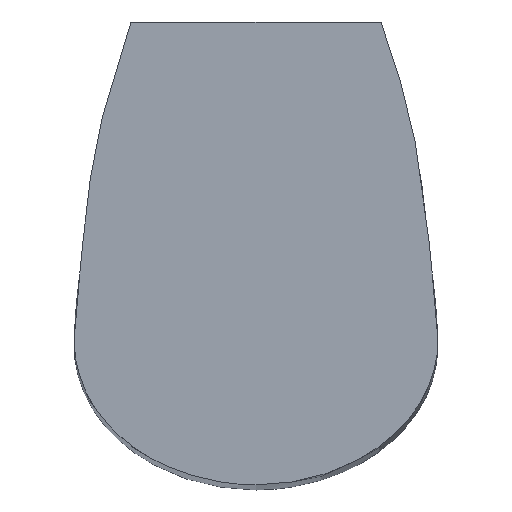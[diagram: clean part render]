
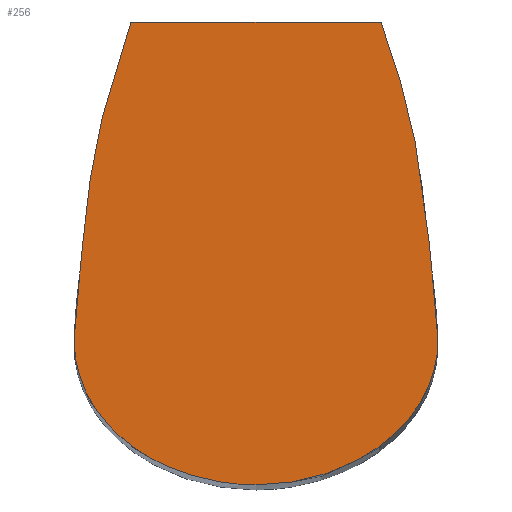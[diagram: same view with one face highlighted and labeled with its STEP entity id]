
A CAD part, top view. The second image highlights one B-rep face of the part: STEP entity #256.
In plain terms, the highlighted planar face has unit normal (0, 0, 1).
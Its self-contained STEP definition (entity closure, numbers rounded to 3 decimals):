
#1=DIRECTION('',(1.,0.,0.));
#2=VECTOR('',#1,1.014);
#3=CARTESIAN_POINT('',(-0.507,-0.25,12.));
#4=LINE('',#3,#2);
#5=CARTESIAN_POINT('',(0.701,-1.134,12.));
#6=CARTESIAN_POINT('',(0.689,-0.984,12.));
#7=CARTESIAN_POINT('',(0.645,-0.683,12.));
#8=CARTESIAN_POINT('',(0.559,-0.392,12.));
#9=CARTESIAN_POINT('',(0.507,-0.25,12.));
#11=CARTESIAN_POINT('',(0.713,-1.259,12.));
#12=CARTESIAN_POINT('',(0.707,-1.216,12.));
#13=CARTESIAN_POINT('',(0.704,-1.175,12.));
#14=CARTESIAN_POINT('',(0.701,-1.134,12.));
#16=CARTESIAN_POINT('',(0.737,-1.533,12.));
#17=CARTESIAN_POINT('',(0.734,-1.442,12.));
#18=CARTESIAN_POINT('',(0.726,-1.35,12.));
#19=CARTESIAN_POINT('',(0.713,-1.259,12.));
#21=CARTESIAN_POINT('',(0.,-2.126,12.));
#22=CARTESIAN_POINT('',(0.045,-2.126,12.));
#23=CARTESIAN_POINT('',(0.134,-2.119,12.));
#24=CARTESIAN_POINT('',(0.308,-2.08,12.));
#25=CARTESIAN_POINT('',(0.51,-1.982,12.));
#26=CARTESIAN_POINT('',(0.694,-1.788,12.));
#27=CARTESIAN_POINT('',(0.739,-1.618,12.));
#28=CARTESIAN_POINT('',(0.737,-1.533,12.));
#30=CARTESIAN_POINT('',(-0.737,-1.533,12.));
#31=CARTESIAN_POINT('',(-0.739,-1.618,12.));
#32=CARTESIAN_POINT('',(-0.694,-1.788,12.));
#33=CARTESIAN_POINT('',(-0.51,-1.982,12.));
#34=CARTESIAN_POINT('',(-0.308,-2.08,12.));
#35=CARTESIAN_POINT('',(-0.134,-2.119,12.));
#36=CARTESIAN_POINT('',(-0.045,-2.126,12.));
#37=CARTESIAN_POINT('',(0.,-2.126,12.));
#39=CARTESIAN_POINT('',(-0.713,-1.259,12.));
#40=CARTESIAN_POINT('',(-0.726,-1.35,12.));
#41=CARTESIAN_POINT('',(-0.734,-1.442,12.));
#42=CARTESIAN_POINT('',(-0.737,-1.533,12.));
#44=CARTESIAN_POINT('',(-0.701,-1.134,12.));
#45=CARTESIAN_POINT('',(-0.704,-1.175,12.));
#46=CARTESIAN_POINT('',(-0.707,-1.216,12.));
#47=CARTESIAN_POINT('',(-0.713,-1.259,12.));
#49=CARTESIAN_POINT('',(-0.507,-0.25,12.));
#50=CARTESIAN_POINT('',(-0.559,-0.392,12.));
#51=CARTESIAN_POINT('',(-0.645,-0.683,12.));
#52=CARTESIAN_POINT('',(-0.689,-0.984,12.));
#53=CARTESIAN_POINT('',(-0.701,-1.134,12.));
#220=CARTESIAN_POINT('',(-0.507,-0.25,12.));
#221=CARTESIAN_POINT('',(0.507,-0.25,12.));
#222=VERTEX_POINT('',#220);
#223=VERTEX_POINT('',#221);
#224=VERTEX_POINT('',#53);
#225=VERTEX_POINT('',#47);
#226=VERTEX_POINT('',#42);
#227=VERTEX_POINT('',#37);
#228=VERTEX_POINT('',#28);
#229=VERTEX_POINT('',#19);
#230=VERTEX_POINT('',#14);
#231=CARTESIAN_POINT('',(-0.507,-0.25,12.));
#232=DIRECTION('',(0.,0.,-1.));
#233=DIRECTION('',(1.,0.,0.));
#234=AXIS2_PLACEMENT_3D('',#231,#232,#233);
#235=PLANE('',#234);
#237=ORIENTED_EDGE('',*,*,#236,.T.);
#239=ORIENTED_EDGE('',*,*,#238,.F.);
#241=ORIENTED_EDGE('',*,*,#240,.F.);
#243=ORIENTED_EDGE('',*,*,#242,.F.);
#245=ORIENTED_EDGE('',*,*,#244,.F.);
#247=ORIENTED_EDGE('',*,*,#246,.F.);
#249=ORIENTED_EDGE('',*,*,#248,.F.);
#251=ORIENTED_EDGE('',*,*,#250,.F.);
#253=ORIENTED_EDGE('',*,*,#252,.F.);
#254=EDGE_LOOP('',(#237,#239,#241,#243,#245,#247,#249,#251,#253));
#255=FACE_OUTER_BOUND('',#254,.F.);
#256=ADVANCED_FACE('',(#255),#235,.F.);
#10=B_SPLINE_CURVE_WITH_KNOTS('',3,(#5,#6,#7,#8,#9),.UNSPECIFIED.,.F.,.F.,(4,1,
4),(0.,0.5,1.),.UNSPECIFIED.);
#15=B_SPLINE_CURVE_WITH_KNOTS('',3,(#11,#12,#13,#14),.UNSPECIFIED.,.F.,.F.,(4,
4),(0.,1.),.UNSPECIFIED.);
#20=B_SPLINE_CURVE_WITH_KNOTS('',3,(#16,#17,#18,#19),.UNSPECIFIED.,.F.,.F.,(4,
4),(0.,1.),.UNSPECIFIED.);
#29=B_SPLINE_CURVE_WITH_KNOTS('',3,(#21,#22,#23,#24,#25,#26,#27,#28),
.UNSPECIFIED.,.F.,.F.,(4,1,1,1,1,4),(0.,0.125,0.25,0.5,0.75,1.),
.UNSPECIFIED.);
#38=B_SPLINE_CURVE_WITH_KNOTS('',3,(#30,#31,#32,#33,#34,#35,#36,#37),
.UNSPECIFIED.,.F.,.F.,(4,1,1,1,1,4),(0.,0.25,0.5,0.75,0.875,1.),
.UNSPECIFIED.);
#43=B_SPLINE_CURVE_WITH_KNOTS('',3,(#39,#40,#41,#42),.UNSPECIFIED.,.F.,.F.,(4,
4),(0.,1.),.UNSPECIFIED.);
#48=B_SPLINE_CURVE_WITH_KNOTS('',3,(#44,#45,#46,#47),.UNSPECIFIED.,.F.,.F.,(4,
4),(0.,1.),.UNSPECIFIED.);
#54=B_SPLINE_CURVE_WITH_KNOTS('',3,(#49,#50,#51,#52,#53),.UNSPECIFIED.,.F.,.F.,(
4,1,4),(0.,0.5,1.),.UNSPECIFIED.);
#236=EDGE_CURVE('',#222,#223,#4,.T.);
#238=EDGE_CURVE('',#230,#223,#10,.T.);
#240=EDGE_CURVE('',#229,#230,#15,.T.);
#242=EDGE_CURVE('',#228,#229,#20,.T.);
#244=EDGE_CURVE('',#227,#228,#29,.T.);
#246=EDGE_CURVE('',#226,#227,#38,.T.);
#248=EDGE_CURVE('',#225,#226,#43,.T.);
#250=EDGE_CURVE('',#224,#225,#48,.T.);
#252=EDGE_CURVE('',#222,#224,#54,.T.);
